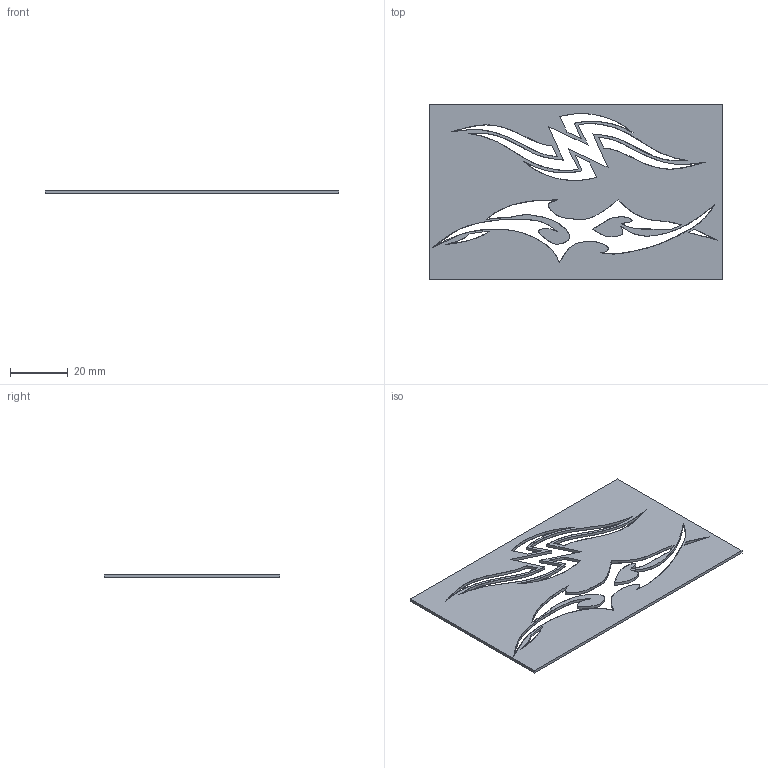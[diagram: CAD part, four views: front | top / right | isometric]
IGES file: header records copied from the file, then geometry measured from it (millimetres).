
Start section: SolidWorks IGES file using analytic representation for surfaces
Global section: file name: C:\TEMP\Neuer Ordner\Musterblech 1.IGS; native system: SolidWorks 2006 by SolidWorks Corporation; preprocessor: SolidWorks 2006 by SolidWorks Corporation; author: hobein; date: 070323.081532; units: millimetre
Bounding box: 101.52 x 60.62 x 1 mm (x, y, z)
Surface area: 11136.2 mm2 (no closed solid volume)
Topology: 0 solids, 0 shells, 52 faces, 1428 edges, 1428 vertices
Faces by surface type: bspline 48, revolution 4
